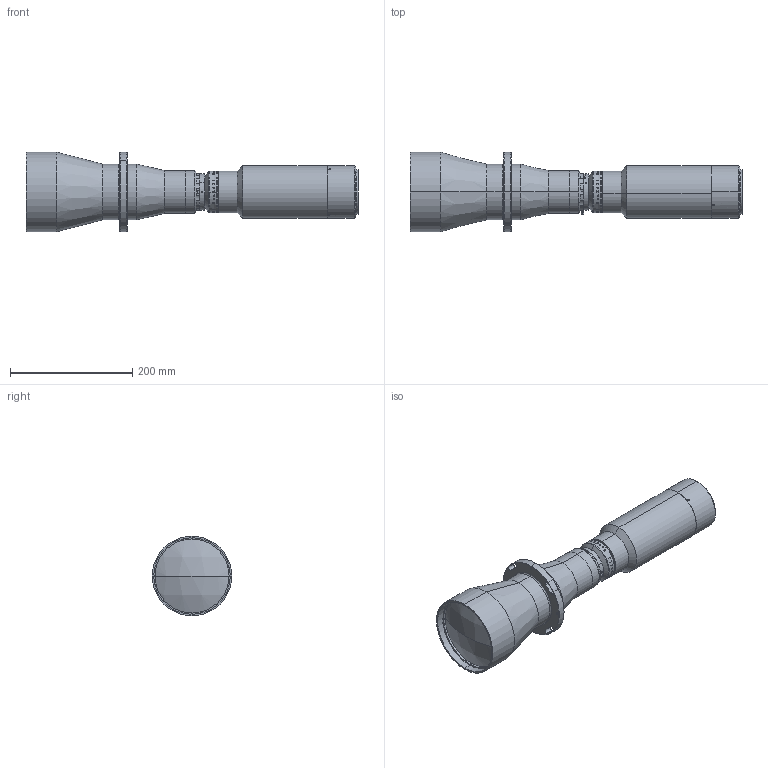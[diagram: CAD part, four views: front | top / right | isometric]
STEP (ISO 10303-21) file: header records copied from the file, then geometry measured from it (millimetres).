
FILE_DESCRIPTION (( 'STEP AP203' ), '1' );
FILE_NAME ('XF-PTL11057-M72-11.48-VI1.STEP', '2020-05-09T02:56:02', ( 'puyufan' ), ( '' ), 'SwSTEP 2.0', 'SolidWorks 2014', '' );
FILE_SCHEMA (( 'CONFIG_CONTROL_DESIGN' ));
Length unit declared in the file: millimetre
Products named in the file (1): XF-PTL11057-M72-11.48-VI1
Bounding box: 542.13 x 130 x 130 mm (x, y, z)
Surface area: 219193 mm2 (no closed solid volume)
Topology: 0 solids, 73 shells, 291 faces, 1931 edges, 1691 vertices
Faces by surface type: cylinder 191, plane 55, cone 34, bspline 7, sphere 2, torus 2
Entity records: 31916 total; most frequent: CARTESIAN_POINT 18315, DIRECTION 2587, ORIENTED_EDGE 2383, EDGE_CURVE 1931, VERTEX_POINT 1691, AXIS2_PLACEMENT_3D 1006, CIRCLE 721, B_SPLINE_CURVE_WITH_KNOTS 635
